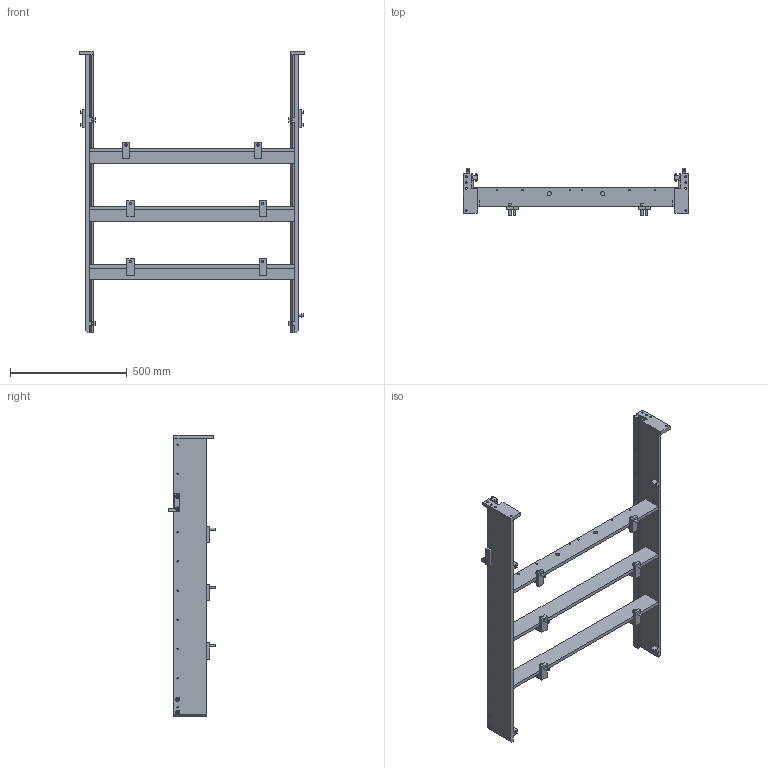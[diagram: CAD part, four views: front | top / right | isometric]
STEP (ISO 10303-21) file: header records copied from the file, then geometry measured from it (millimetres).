
FILE_DESCRIPTION(/* description */ (''),/* implementation_level */ '2;1');
FILE_NAME(/* name */ '2008_baseframe.stp',/* time_stamp */ '2020-08-05T18:13:12+02:00',/* author */ (''),/* organization */ (''),/* preprocessor_version */ 'ST-DEVELOPER v16.7',/* originating_system */ 'SIEMENS PLM Software NX 1892',/* authorisation */ '');
FILE_SCHEMA (('AUTOMOTIVE_DESIGN { 1 0 10303 214 3 1 1 1 }'));
Length unit declared in the file: millimetre
Products named in the file (1): bmas3FC851C1leop
Bounding box: 968 x 201 x 1208 mm (x, y, z)
Volume: 10620358.8 mm3; surface area: 2157249.4 mm2
Topology: 76 solids, 76 shells, 932 faces, 2083 edges, 1385 vertices
Faces by surface type: plane 586, cylinder 262, cone 53, torus 31
Full cylindrical faces by diameter (mm): 3 x4, 5 x20, 5.795 x20, 6.6 x4, 6.8 x24, 7.76 x5, 8 x4, 8.4 x13, 8.5 x4, 9.732 x6, 10 x20, 10.3 x4, 10.5 x6, 11 x4, 12 x4, 13 x5, 16 x6, 17 x13, 18 x2, 21 x6
Entity records: 25768 total; most frequent: DIRECTION 4218, CARTESIAN_POINT 3989, ORIENTED_EDGE 3496, EDGE_CURVE 1748, AXIS2_PLACEMENT_3D 1537, EDGE_LOOP 1482, VERTEX_POINT 1308, LINE 1144
